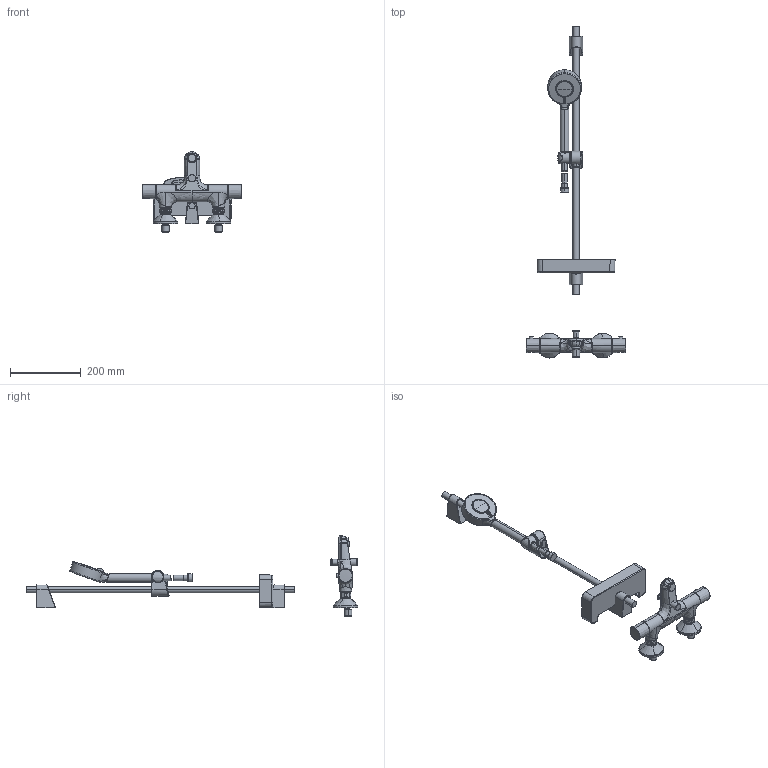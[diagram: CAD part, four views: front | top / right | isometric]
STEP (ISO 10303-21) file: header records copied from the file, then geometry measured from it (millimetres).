
FILE_DESCRIPTION (( 'STEP AP203' ), '1' );
FILE_NAME ('1348U(2017).STEP', '2019-03-19T05:33:35', ( '' ), ( '' ), 'SwSTEP 2.0', 'SolidWorks 2016', '' );
FILE_SCHEMA (( 'CONFIG_CONTROL_DESIGN' ));
Products named in the file (1): 1348U(2017)
Bounding box: 281.88 x 937.96 x 226.7 mm (x, y, z)
Volume: 1574110.4 mm3; surface area: 313530.9 mm2
Topology: 27 solids, 27 shells, 902 faces, 2136 edges, 1283 vertices
Faces by surface type: bspline 427, cylinder 201, plane 160, cone 54, torus 50, sphere 10
Entity records: 51848 total; most frequent: CARTESIAN_POINT 34233, ORIENTED_EDGE 4216, DIRECTION 2809, EDGE_CURVE 2108, VERTEX_POINT 1283, AXIS2_PLACEMENT_3D 1194, EDGE_LOOP 933, ADVANCED_FACE 902
